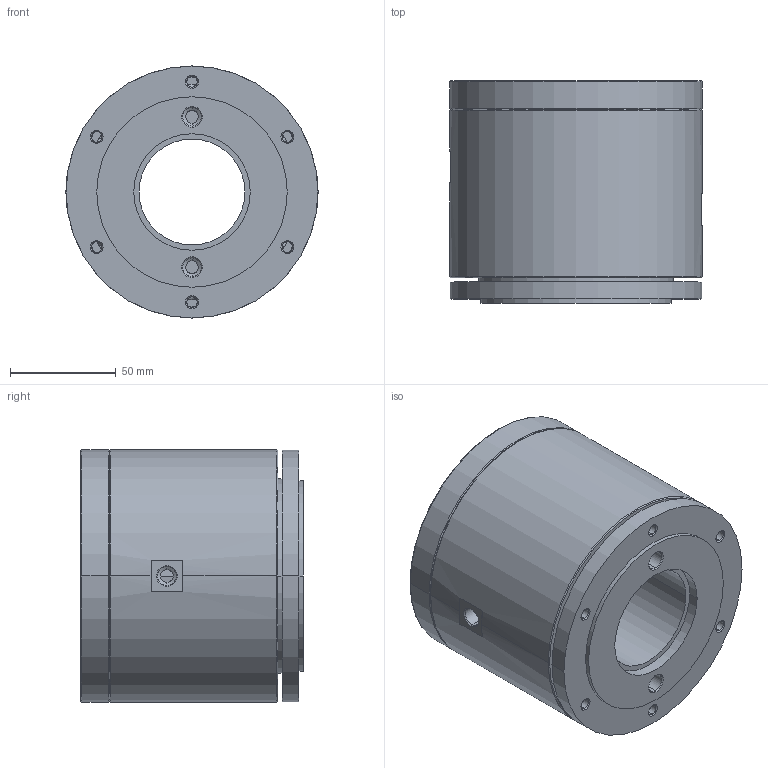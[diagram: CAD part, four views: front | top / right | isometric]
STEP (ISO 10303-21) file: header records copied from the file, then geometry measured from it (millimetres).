
FILE_DESCRIPTION (( 'STEP AP214' ), '1' );
FILE_NAME ('2T120-50軞傖.STEP', '2025-06-11T01:51:09', ( '' ), ( '' ), 'SwSTEP 2.0', 'SolidWorks 2020', '' );
FILE_SCHEMA (( 'AUTOMOTIVE_DESIGN' ));
Length unit declared in the file: millimetre
Products named in the file (7): 2T120-50軞傖; 錨璃1; 錨璃12; deep groove ball bearings gb_Rolling bearings 61814 GB 276-94; 錨璃13; deep groove ball bearings gb_Rolling bearings 61817 GB 276-94; circlips for shaft--type a large gb_GB_CONNECTING_PIECE_RING_RRA 70
Assembly tree (6 placements, depth 2):
  2T120-50軞傖
    錨璃1
    錨璃12
    錨璃13
    circlips for shaft--type a large gb_GB_CONNECTING_PIECE_RING_RRA 70
    deep groove ball bearings gb_Rolling bearings 61817 GB 276-94
    deep groove ball bearings gb_Rolling bearings 61814 GB 276-94
Bounding box: 119 x 105 x 119 mm (x, y, z)
Volume: 869305 mm3; surface area: 210929.7 mm2
Topology: 6 solids, 6 shells, 893 faces, 3720 edges, 2488 vertices
Faces by surface type: torus 400, sphere 192, cylinder 178, plane 71, cone 52
Entity records: 42274 total; most frequent: CARTESIAN_POINT 15452, ORIENTED_EDGE 6272, DIRECTION 5080, EDGE_CURVE 3136, AXIS2_PLACEMENT_3D 2406, VERTEX_POINT 2104, CIRCLE 1504, B_SPLINE_CURVE_WITH_KNOTS 1356
